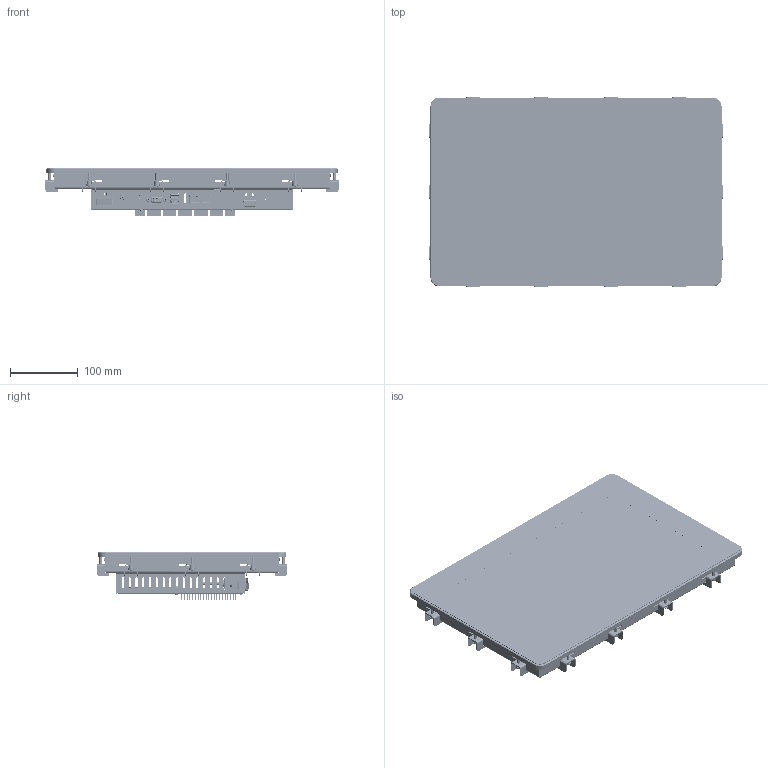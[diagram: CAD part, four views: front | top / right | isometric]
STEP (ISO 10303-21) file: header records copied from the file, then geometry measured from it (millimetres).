
FILE_DESCRIPTION (( 'STEP AP203' ), '1' );
FILE_NAME ('S156-C4.STEP', '2026-03-05T14:57:13', ( '' ), ( '' ), 'SwSTEP 2.0', 'SolidWorks 2025', '' );
FILE_SCHEMA (( 'CONFIG_CONTROL_DESIGN' ));
Length unit declared in the file: millimetre
Products named in the file (49): sbc-250(2)^sbc-250; PPC-SBC250-00_IRtouch panelmount; Vertical stacked USB panelmount_Défaut; G156HCE-L01; SBC250-01 Audioset; PF-156-10 Panelframe; MP-156-10 Mounting plate; MBR-10 Mounting bracket; PC156-00 Assembly_MO15-TFT-02; AK_USB_13P_4HD_RA_FOXC^PCB-SBC-250_sbc-250(2)_sbc-250; HEAT-SINK-1_14^SBC240_HS_00_ASM_73_sbc-250(2)_sbc-250; Rocker switch; NUT-1_14^SBC240_HS_00_ASM_73_sbc-250(2)_sbc-250; RTPC156WF1-R1-30BP1-C-ROCK; PCB-SBC-250-5^PCB-SBC-250_sbc-250(2)_sbc-250; MYLAR_7^SBC240_HS_00_ASM_73_sbc-250(2)_sbc-250; AK_D_SUB_15P_4HD_RA_LFA^PCB-SBC-250_sbc-250(2)_sbc-250; SCREW_6^SBC240_HS_00_ASM_73_sbc-250(2)_sbc-250; PAD_GR-45A_9^SBC240_HS_00_ASM_73_sbc-250(2)_sbc-250; SLIM_D-SUB_15F_1_50MM_DIP_90_^PCB-SBC-250_sbc-250(2)_sbc-250; MSBR-3^SLIM_D-SUB_15F_1_50MM_DIP_90__PCB-SBC-250_sbc-250(2)_sbc-250; Celrubber 3x6^PC156-00 Assembly; pj-064b_01; pj-064b_04; IOPC-10 Power button panelmount connector; DIN EN ISO 7045 - M4 x 20 - Z - 20N_DIN EN ISO 7045 - M4 x 20 - Z - 20N; SO4-M4-6 Inpersafstandsteun; AK_HDMI_19P_30_7HD_RA_LFA^PCB-SBC-250_sbc-250(2)_sbc-250; MSBR-1^SLIM_D-SUB_15F_1_50MM_DIP_90__PCB-SBC-250_sbc-250(2)_sbc-250; inpersmoer_M3-plaat1mm; S156-10 Bezel; AK_LAN_JACK_24P_4H_S_KI_LFA^PCB-SBC-250_sbc-250(2)_sbc-250; pj-064b_05; S156-C4; TF-F-M3 Inpersmoer; PCB-SBC-250^sbc-250(2)_sbc-250; 2.5'''' HDD; DIN EN ISO 7046-1 - M3 x 6 - Z - 6N_DIN EN ISO 7046-1 - M3 x 6 - Z - 6N; pj-064b_03; BC-SBC250-10 Backcover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
Assembly tree (104 placements, depth 8):
  S156-C4
    PC156-00 Assembly_MO15-TFT-02
      MP-156-10 Mounting plate
        MP-156-10 Mounting plate
        inpersmoer_M3-plaat1mm  x12
      PF-156-10 Panelframe
        PF-156-10 Panelframe
        TF-F-M3 Inpersmoer  x14
      MBR-10 Mounting bracket  x14
        MBR-10 Mounting bracket
        SO4-M4-6 Inpersafstandsteun
        DIN EN ISO 7045 - M4 x 20 - Z - 20N_DIN EN ISO 7045 - M4 x 20 - Z - 20N
      DIN EN ISO 7046-1 - M3 x 6 - Z - 6N_DIN EN ISO 7046-1 - M3 x 6 - Z - 6N  x14
      G156HCE-L01
      Celrubber 3x6^PC156-00 Assembly
      PPC-SBC250-00_IRtouch panelmount
        BC-SBC250-10 Backcover
        Rocker switch
        LE-374_RS232_RS 446-462
        sbc-250
          sbc-250(2)^sbc-250
            PCB-SBC-250^sbc-250(2)_sbc-250
              SLIM_D-SUB_15F_1_50MM_DIP_90_^PCB-SBC-250_sbc-250(2)_sbc-250
                MSBR-3^SLIM_D-SUB_15F_1_50MM_DIP_90__PCB-SBC-250_sbc-250(2)_sbc-250
                MSBR-2^SLIM_D-SUB_15F_1_50MM_DIP_90__PCB-SBC-250_sbc-250(2)_sbc-250
                MSBR-1^SLIM_D-SUB_15F_1_50MM_DIP_90__PCB-SBC-250_sbc-250(2)_sbc-250
              PCB-SBC-250-5^PCB-SBC-250_sbc-250(2)_sbc-250
              AK_D_SUB_15P_4HD_RA_LFA^PCB-SBC-250_sbc-250(2)_sbc-250
              AK_USB_13P_4HD_RA_FOXC^PCB-SBC-250_sbc-250(2)_sbc-250
              AK_HDMI_19P_30_7HD_RA_LFA^PCB-SBC-250_sbc-250(2)_sbc-250
              AK_LAN_JACK_24P_4H_S_KI_LFA^PCB-SBC-250_sbc-250(2)_sbc-250
            SBC240_HS_00_ASM_73^sbc-250(2)_sbc-250
              HEAT-SINK-1_14^SBC240_HS_00_ASM_73_sbc-250(2)_sbc-250
              MYLAR_7^SBC240_HS_00_ASM_73_sbc-250(2)_sbc-250
              PAD_GR-45A_9^SBC240_HS_00_ASM_73_sbc-250(2)_sbc-250
              NUT-1_14^SBC240_HS_00_ASM_73_sbc-250(2)_sbc-250  x4
              SCREW_6^SBC240_HS_00_ASM_73_sbc-250(2)_sbc-250  x4
        2.5mm_DC_socket_panelmount
          pj-064b_01
          pj-064b_02
          pj-064b_03
          pj-064b_04
          pj-064b_05
        2.5'''' HDD
        Vertical stacked USB panelmount_Défaut
        IOPC-10 Power button panelmount connector
        SBC250-01 Audioset
    S156-10 Bezel
    RTPC156WF1-R1-30BP1-C-ROCK
Bounding box: 433 x 282 x 71.9 mm (x, y, z)
Volume: 1611661.5 mm3; surface area: 1154292.2 mm2
Topology: 125 solids, 140 shells, 10676 faces, 28571 edges, 18246 vertices
Faces by surface type: plane 7140, cylinder 2688, cone 379, bspline 289, torus 140, sphere 40
Full cylindrical faces by diameter (mm): 0.92 x9, 1 x5, 1.95 x2, 2.5 x43, 3 x24, 3.2 x2, 3.4 x8, 3.5 x24, 4 x28, 4.2 x13, 4.4 x20, 4.42 x6, 4.5 x20, 4.8 x8, 5.5 x15, 5.7 x1, 5.8 x1, 6 x1, 6.3 x12, 6.5 x3, 7.1 x14, 7.22 x14, 8 x15, 11 x1
Entity records: 305211 total; most frequent: CARTESIAN_POINT 77902, ORIENTED_EDGE 47156, DIRECTION 43496, EDGE_CURVE 23580, LINE 17568, VECTOR 17568, VERTEX_POINT 15245, AXIS2_PLACEMENT_3D 12964
